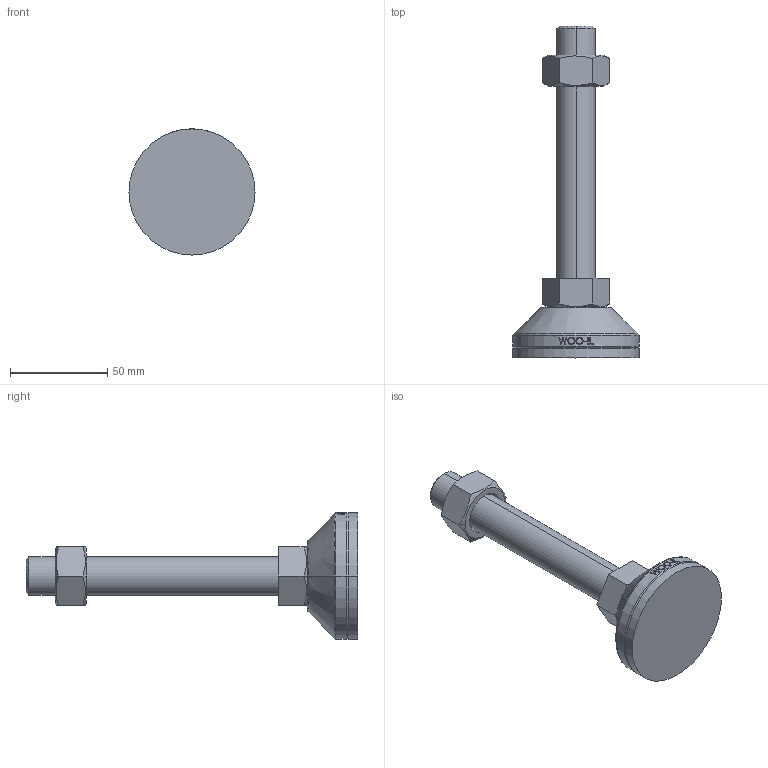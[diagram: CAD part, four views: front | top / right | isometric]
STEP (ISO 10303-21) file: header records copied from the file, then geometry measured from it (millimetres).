
FILE_DESCRIPTION (( 'STEP AP214' ), '1' );
FILE_NAME ('NHNR65-M20-130.step', '2021-01-25T06:18:11', ( '' ), ( '' ), 'SwSTEP 2.0', 'SolidWorks 2019', '' );
FILE_SCHEMA (( 'AUTOMOTIVE_DESIGN' ));
Length unit declared in the file: millimetre
Products named in the file (2): NHNR65-M20-130
Bounding box: 65 x 171 x 65 mm (x, y, z)
Volume: 127535.5 mm3; surface area: 31381.8 mm2
Topology: 4 solids, 4 shells, 105 faces, 239 edges, 152 vertices
Faces by surface type: plane 49, cylinder 18, bspline 16, cone 14, torus 8
Entity records: 4375 total; most frequent: CARTESIAN_POINT 2058, ORIENTED_EDGE 478, DIRECTION 429, EDGE_CURVE 239, AXIS2_PLACEMENT_3D 165, VERTEX_POINT 152, EDGE_LOOP 117, FACE_OUTER_BOUND 105
